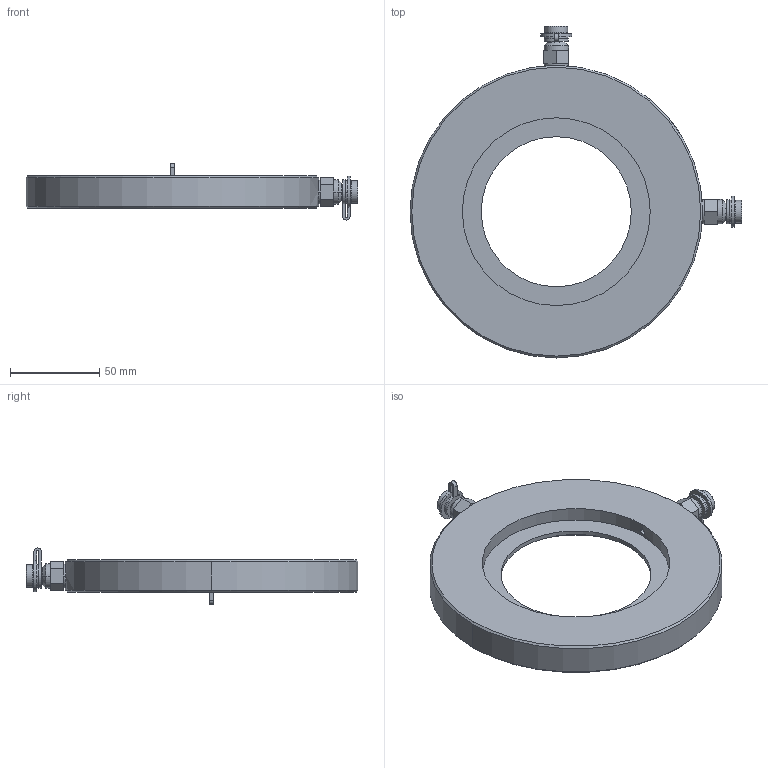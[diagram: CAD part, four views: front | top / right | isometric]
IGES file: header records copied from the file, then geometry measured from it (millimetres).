
Global section: file name: No Iges File Name specified; native system: AutoDesk Inventor R12.0; preprocessor: AutoDesk Inventor Iges Exporter R12.0; date: 20101223.103540; units: millimetre
Bounding box: 186.1 x 186.1 x 31.45 mm (x, y, z)
Volume: 237273 mm3; surface area: 49129.2 mm2
Topology: 1 solids, 1 shells, 125 faces, 290 edges, 186 vertices
Faces by surface type: plane 48, cylinder 29, bspline 18, cone 16, revolution 14
